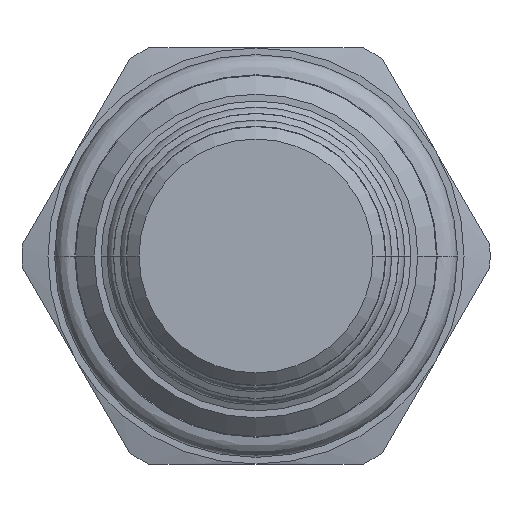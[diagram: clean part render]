
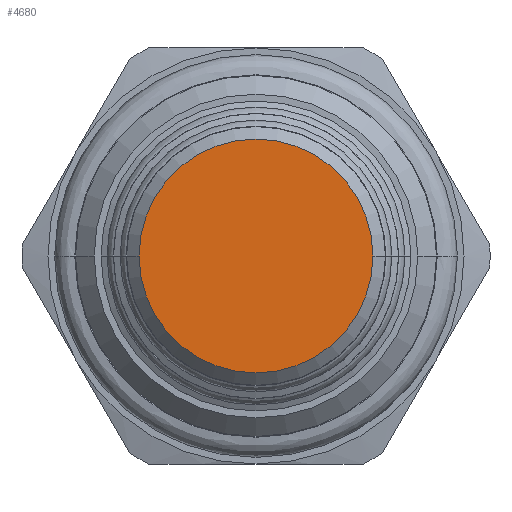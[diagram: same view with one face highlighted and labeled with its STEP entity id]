
A CAD part, front view. The second image highlights one B-rep face of the part: STEP entity #4680.
In plain terms, the highlighted planar face has unit normal (0, -1, 0).
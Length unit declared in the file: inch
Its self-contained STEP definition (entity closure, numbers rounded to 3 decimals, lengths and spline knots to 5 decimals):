
#1430=CARTESIAN_POINT('',(0.,-1.83777,0.));
#1431=DIRECTION('',(0.,1.,0.));
#1432=DIRECTION('',(1.,0.,0.));
#1433=AXIS2_PLACEMENT_3D('',#1430,#1431,#1432);
#1444=CARTESIAN_POINT('',(0.,-1.83777,0.));
#1445=DIRECTION('',(0.,-1.,0.));
#1446=DIRECTION('',(1.,0.,0.));
#1447=AXIS2_PLACEMENT_3D('',#1444,#1445,#1446);
#2313=CARTESIAN_POINT('',(0.281,-1.83777,0.));
#2314=CARTESIAN_POINT('',(-0.281,-1.83777,0.));
#2315=VERTEX_POINT('',#2313);
#2316=VERTEX_POINT('',#2314);
#4671=CARTESIAN_POINT('',(0.,-1.83777,0.));
#4672=DIRECTION('',(0.,1.,0.));
#4673=DIRECTION('',(-1.,0.,0.));
#4674=AXIS2_PLACEMENT_3D('',#4671,#4672,#4673);
#4675=PLANE('',#4674);
#4676=ORIENTED_EDGE('',*,*,#4665,.F.);
#4677=ORIENTED_EDGE('',*,*,#4651,.T.);
#4678=EDGE_LOOP('',(#4676,#4677));
#4679=FACE_OUTER_BOUND('',#4678,.F.);
#4680=ADVANCED_FACE('',(#4679),#4675,.F.);
#1434=CIRCLE('',#1433,0.281);
#1448=CIRCLE('',#1447,0.281);
#4651=EDGE_CURVE('',#2315,#2316,#1434,.T.);
#4665=EDGE_CURVE('',#2315,#2316,#1448,.T.);
